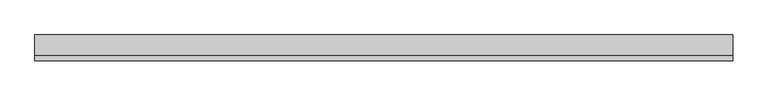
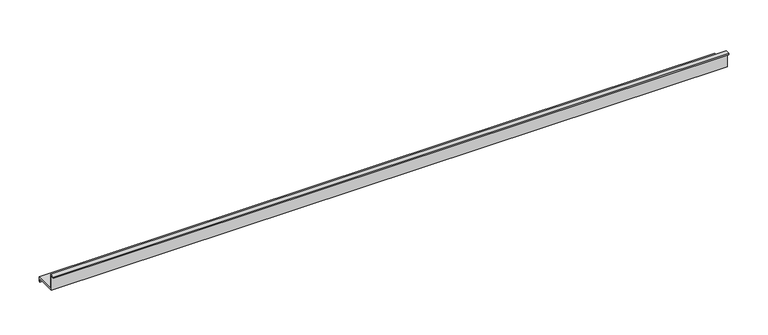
"""IFC4 building model written with IfcOpenShell, lengths in millimetres: proxy geometry, Muestra 1.00ML_243 PF : Muestra 1.00ML_243 PF."""

from ifc_helpers import new_model, si_unit, frame, origin, place, context, project, spatial, polyline, outline, extrude, source, transform, mapped, element, save


def generic_models_16c41e59(model_context):
    return source(origin(), model_context, "Body", "SweptSolid", [
        extrude(outline(polyline([(23755.6044759, 0.0), (23762.6044759, 0.0), (23762.6044759, -22.0), (23792.6044759, -22.0), (23792.6044759, -29.0), (23790.6044759, -29.0), (23790.6044759, -24.0), (23760.6044759, -24.0), (23760.6044759, -2.0), (23755.6044759, -2.0), (23755.6044759, 0.0)])), frame((111256.4768924, 0.0, 0.0), z_axis=(1.0, 0.0, 0.0), x_axis=(0.0, 1.0, 0.0)), (0.0, 0.0, 1.0), 1000.0),
    ])


if __name__ == "__main__":
    model = new_model("IFC4")
    model_context = context("Model", 3, world=origin())
    ifc_project = project(units=[si_unit("LENGTHUNIT", "METRE", prefix="MILLI")], contexts=[model_context])
    site = spatial("IfcSite", under=ifc_project)
    building = spatial("IfcBuilding", under=site)
    placement = place(None, origin())
    generic_models_shape = generic_models_16c41e59(model_context)
    element("IfcBuildingElementProxy", 1, Name="Muestra 1.00ML_243 PF : Muestra 1.00ML_243 PF", ObjectType="Muestra 1.00ML_243 PF : Muestra 1.00ML_243 PF", at=placement, inside=building, context=model_context, shape_type="MappedRepresentation", body=[
        mapped(generic_models_shape, transform((0.0, 0.0, 0.0), x_axis=(1.0, 0.0, 0.0), y_axis=(0.0, 1.0, 0.0), z_axis=(0.0, 0.0, 1.0))),
    ])
    save(model, "model.ifc")
